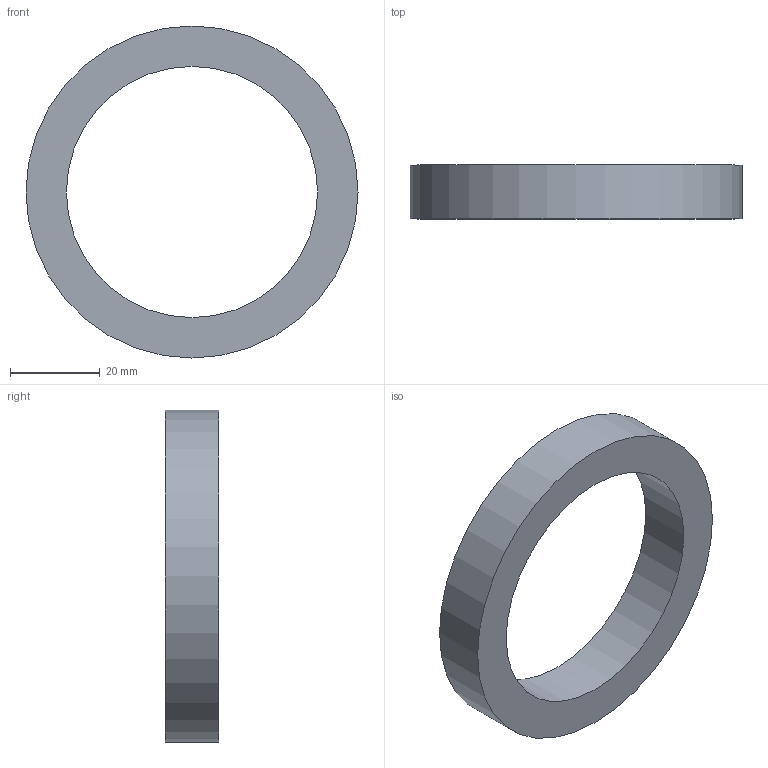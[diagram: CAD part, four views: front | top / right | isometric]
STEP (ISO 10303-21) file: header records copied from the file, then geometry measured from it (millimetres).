
FILE_DESCRIPTION(('Open CASCADE Model'),'2;1');
FILE_NAME('Open CASCADE Shape Model','2026-10-17T16:45:03',('Author'),( 'Open CASCADE'),'Open CASCADE STEP processor 8.0','build123d', 'Unknown');
FILE_SCHEMA(('AUTOMOTIVE_DESIGN { 1 0 10303 214 1 1 1 1 }'));
Length unit declared in the file: millimetre
Products named in the file (1): COMPOUND
Bounding box: 74 x 12 x 74 mm (x, y, z)
Volume: 22054 mm3; surface area: 8576.5 mm2
Topology: 1 solids, 1 shells, 4 faces, 6 edges, 4 vertices
Faces by surface type: cylinder 2, plane 2
Full cylindrical faces by diameter (mm): 56 x1, 74 x1
Entity records: 186 total; most frequent: DIRECTION 32, CARTESIAN_POINT 27, ORIENTED_EDGE 12, PCURVE 12, DEFINITIONAL_REPRESENTATION 12, LINE 10, VECTOR 10, AXIS2_PLACEMENT_3D 9
